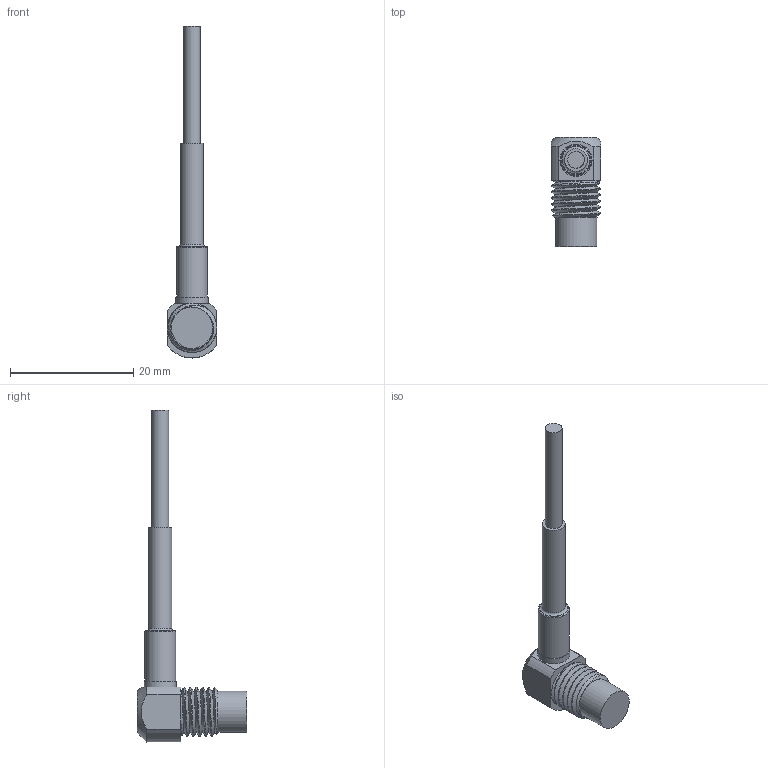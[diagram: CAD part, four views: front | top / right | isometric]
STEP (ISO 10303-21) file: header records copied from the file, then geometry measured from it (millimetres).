
FILE_DESCRIPTION( ( 'STEP AP214' ), '1' );
FILE_NAME( 'N:/Engineering/CAD_Solid/Wirbelstrom/Wirbelstromsensoren/T2/T2_G_KR_VK7.stp', '2011-04-12T09:03:32', ( ' ' ), ( ' ' ), 'XStep 1.0', ' ', ' ' );
FILE_SCHEMA( ( 'CONFIG_CONTROL_DESIGN) ( )' ) );
Length unit declared in the file: metre
Products named in the file (5): 1; 2; 3; 4; 5
Bounding box: 8 x 17.7 x 53.9 mm (x, y, z)
Surface area: 1410.9 mm2 (no closed solid volume)
Topology: 0 solids, 30 shells, 30 faces, 116 edges, 107 vertices
Faces by surface type: plane 11, cylinder 9, cone 4, torus 3, bspline 3
Full cylindrical faces by diameter (mm): 2.7 x1, 3.7 x1, 5 x1, 5.2 x1, 6.7 x1
Entity records: 3520 total; most frequent: CARTESIAN_POINT 2396, DIRECTION 180, ORIENTED_EDGE 105, EDGE_CURVE 105, VERTEX_POINT 105, AXIS2_PLACEMENT_3D 81, CIRCLE 49, FACE_BOUND 44
